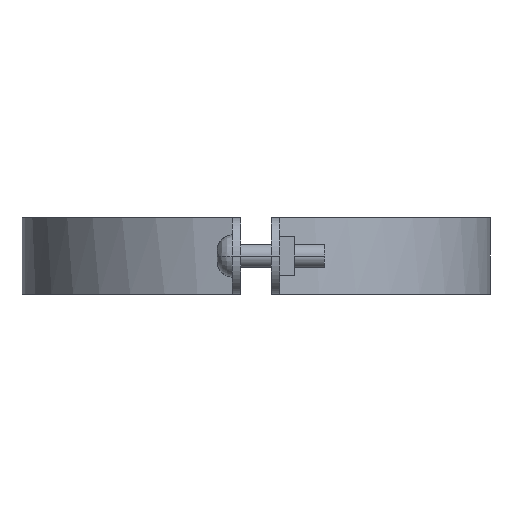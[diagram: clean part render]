
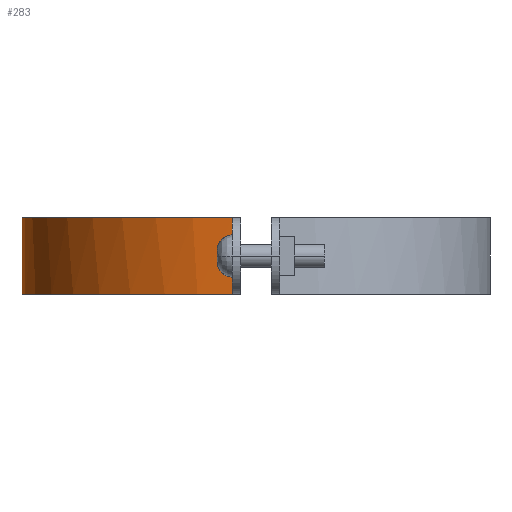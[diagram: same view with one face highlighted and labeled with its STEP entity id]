
A CAD part, left-side view. The second image highlights one B-rep face of the part: STEP entity #283.
In plain terms, the highlighted free-form (B-spline) face has degree [3, 1] with [4, 2] control points.
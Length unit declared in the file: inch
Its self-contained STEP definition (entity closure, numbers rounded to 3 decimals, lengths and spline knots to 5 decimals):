
#283=ADVANCED_FACE('',(#548),#549,.T.);
#548=FACE_OUTER_BOUND('',#1247,.T.);
#549=B_SPLINE_SURFACE_WITH_KNOTS('',3,1,((#1248,#1249),(#1250,#1251),(#1252,#1253),(#1254,#1255)),.UNSPECIFIED.,.F.,.F.,.F.,(4,4),(2,2),(0.0,1.0),(0.0,1.25),.UNSPECIFIED.);
#1247=EDGE_LOOP('',(#1818,#1819,#1820,#1821));
#1248=CARTESIAN_POINT('',(4.4968,7.33248,0.0));
#1249=CARTESIAN_POINT('',(4.4968,7.33248,1.25));
#1250=CARTESIAN_POINT('',(2.53626,7.33248,0.0));
#1251=CARTESIAN_POINT('',(2.53626,7.33248,1.25));
#1252=CARTESIAN_POINT('',(0.89408,5.84816,0.0));
#1253=CARTESIAN_POINT('',(0.89408,5.84816,1.25));
#1254=CARTESIAN_POINT('',(0.69662,3.89757,0.0));
#1255=CARTESIAN_POINT('',(0.69662,3.89757,1.25));
#1818=ORIENTED_EDGE('',*,*,#2073,.T.);
#1819=ORIENTED_EDGE('',*,*,#2114,.T.);
#1820=ORIENTED_EDGE('',*,*,#2046,.T.);
#1821=ORIENTED_EDGE('',*,*,#2005,.F.);
#2005=EDGE_CURVE('',#2282,#2284,#2285,.T.);
#2046=EDGE_CURVE('',#2353,#2284,#2354,.T.);
#2073=EDGE_CURVE('',#2282,#2395,#2397,.T.);
#2114=EDGE_CURVE('',#2395,#2353,#2463,.T.);
#2282=VERTEX_POINT('',#2692);
#2284=VERTEX_POINT('',#2695);
#2285=LINE('',#2696,#2697);
#2353=VERTEX_POINT('',#2808);
#2354=B_SPLINE_CURVE_WITH_KNOTS('',3,(#2809,#2810,#2811,#2812),.UNSPECIFIED.,.F.,.F.,(4,4),(-1.0,-0.0),.UNSPECIFIED.);
#2395=VERTEX_POINT('',#2881);
#2397=B_SPLINE_CURVE_WITH_KNOTS('',3,(#2884,#2885,#2886,#2887),.UNSPECIFIED.,.F.,.F.,(4,4),(0.0,1.0),.UNSPECIFIED.);
#2463=LINE('',#3025,#3026);
#2692=CARTESIAN_POINT('',(4.4968,7.33248,0.00011));
#2695=CARTESIAN_POINT('',(4.4968,7.33248,1.24992));
#2696=CARTESIAN_POINT('',(4.4968,7.33248,0.0));
#2697=VECTOR('',#3379,1.0);
#2808=CARTESIAN_POINT('',(0.69662,3.89757,1.24992));
#2809=CARTESIAN_POINT('',(0.69662,3.89757,1.24992));
#2810=CARTESIAN_POINT('',(0.89408,5.84816,1.24992));
#2811=CARTESIAN_POINT('',(2.53626,7.33248,1.24992));
#2812=CARTESIAN_POINT('',(4.4968,7.33248,1.24992));
#2881=CARTESIAN_POINT('',(0.69662,3.89757,0.00011));
#2884=CARTESIAN_POINT('',(4.4968,7.33248,0.00011));
#2885=CARTESIAN_POINT('',(2.53626,7.33248,0.00011));
#2886=CARTESIAN_POINT('',(0.89408,5.84816,0.00011));
#2887=CARTESIAN_POINT('',(0.69662,3.89757,0.00011));
#3025=CARTESIAN_POINT('',(0.69662,3.89757,0.0));
#3026=VECTOR('',#3443,1.0);
#3379=DIRECTION('',(0.0,0.0,1.0));
#3443=DIRECTION('',(0.0,0.0,1.0));
